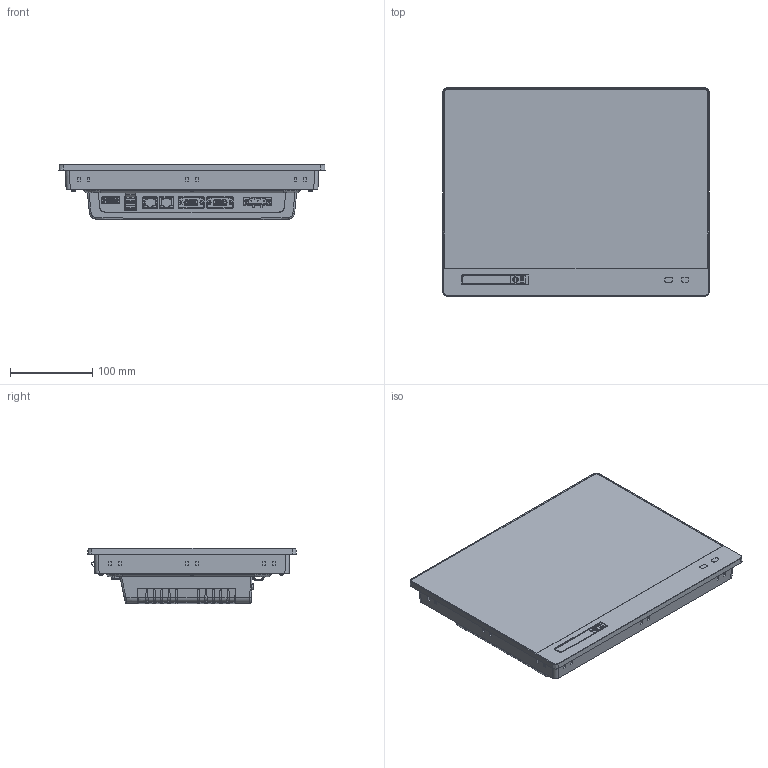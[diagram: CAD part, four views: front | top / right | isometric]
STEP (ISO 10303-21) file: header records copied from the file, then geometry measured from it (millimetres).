
FILE_DESCRIPTION((''),'2;1');
FILE_NAME('3D-TOPRC1200WD','2024-12-24T16:22:54',('이형우'),(''),'CREO PARAMETRIC BY PTC INC, 2024153','CREO PARAMETRIC BY PTC INC, 2024153','');
FILE_SCHEMA(('CONFIG_CONTROL_DESIGN'));
Products named in the file (1): 3D-TOPRC1200WD
Bounding box: 324.4 x 253.9 x 67.6 mm (x, y, z)
Volume: 3725487 mm3; surface area: 236895.4 mm2
Topology: 1 solids, 10 shells, 2962 faces, 8080 edges, 5217 vertices
Faces by surface type: plane 1791, cylinder 874, bspline 138, cone 70, extrusion 38, sphere 34, torus 17
Entity records: 107621 total; most frequent: CARTESIAN_POINT 35216, ORIENTED_EDGE 16120, DIRECTION 13214, EDGE_CURVE 8060, VECTOR 5530, LINE 5492, VERTEX_POINT 5217, AXIS2_PLACEMENT_3D 3842
